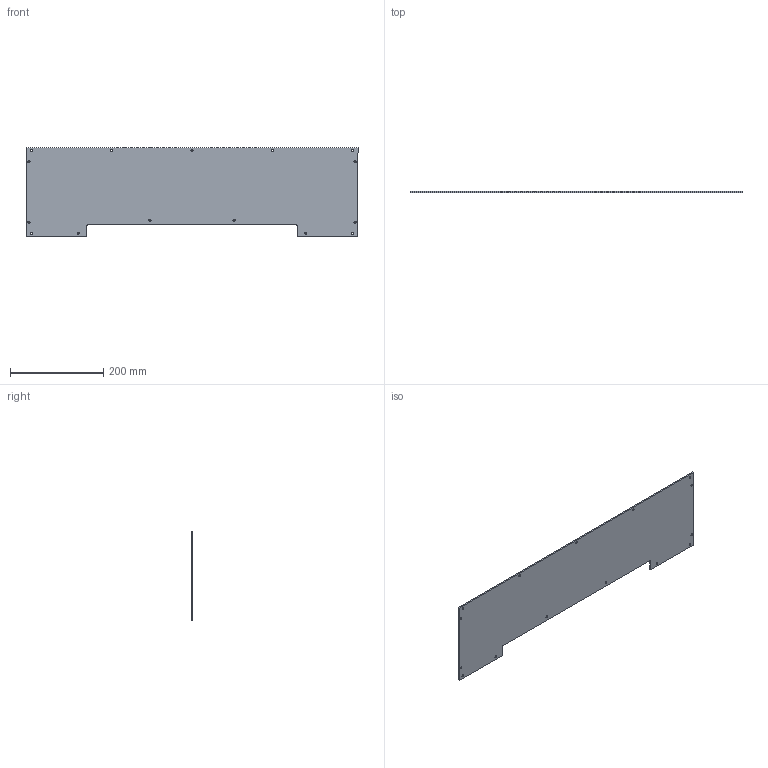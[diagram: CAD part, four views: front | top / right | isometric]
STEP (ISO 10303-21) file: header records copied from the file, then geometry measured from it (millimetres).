
FILE_DESCRIPTION(/* description */ (''),/* implementation_level */ '2;1');
FILE_NAME(/* name */ 'C:/Users/anton/Documents/Kerbal Space Program/Kerbal_Control_Panel/KCP2/CAD/ForManufacture/Panel_BackPlate_v95_Folded.step',/* time_stamp */ '2020-11-15T14:28:03-08:00',/* author */ (''),/* organization */ (''),/* preprocessor_version */ 'ST-DEVELOPER v18.1',/* originating_system */ 'Autodesk Translation Framework v9.3.0.1241',/* authorisation */ '');
FILE_SCHEMA (('AUTOMOTIVE_DESIGN { 1 0 10303 214 3 1 1 }'));
Length unit declared in the file: millimetre
Products named in the file (1): Back Plate
Bounding box: 711 x 3 x 189.8 mm (x, y, z)
Volume: 369768.9 mm3; surface area: 252928.9 mm2
Topology: 1 solids, 1 shells, 44 faces, 111 edges, 69 vertices
Faces by surface type: cylinder 19, cone 15, plane 10
Full cylindrical faces by diameter (mm): 4.496 x15
Entity records: 1456 total; most frequent: DIRECTION 254, CARTESIAN_POINT 225, ORIENTED_EDGE 222, EDGE_CURVE 111, AXIS2_PLACEMENT_3D 98, EDGE_LOOP 74, VERTEX_POINT 69, LINE 58
